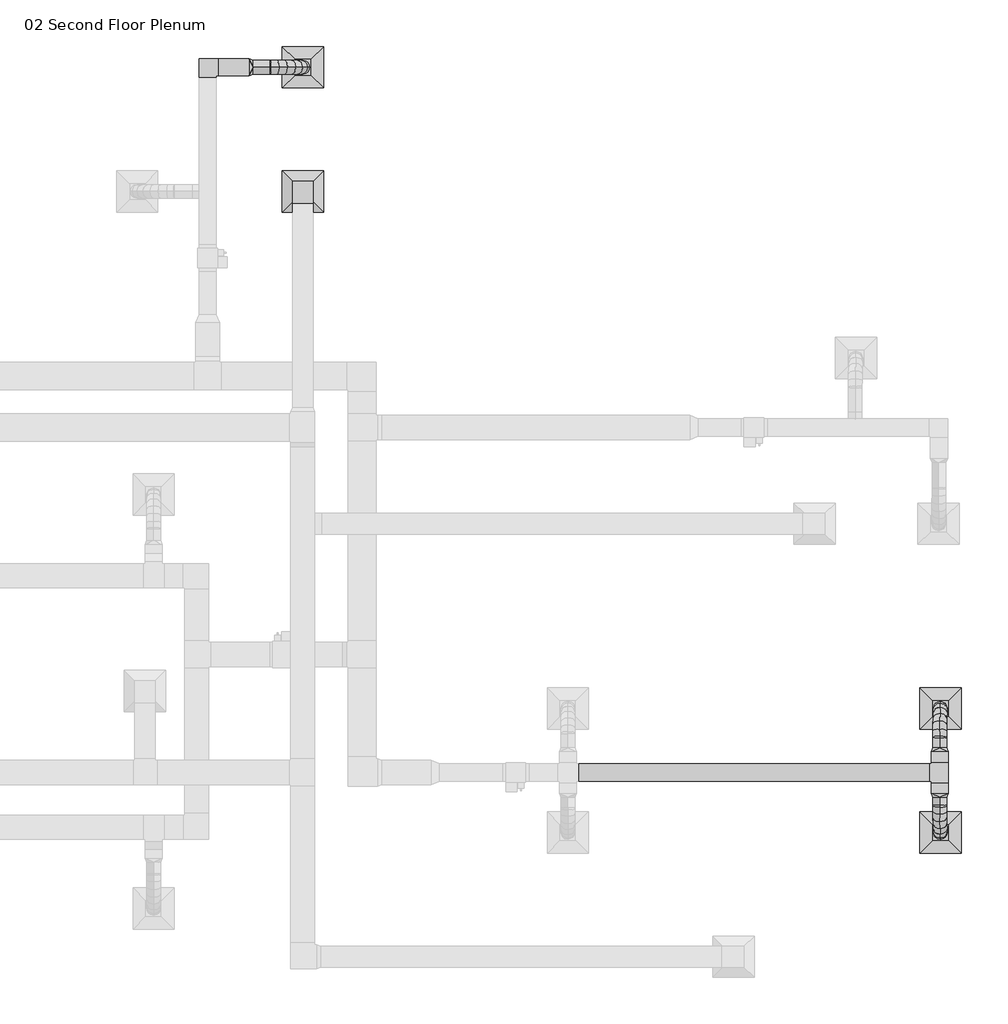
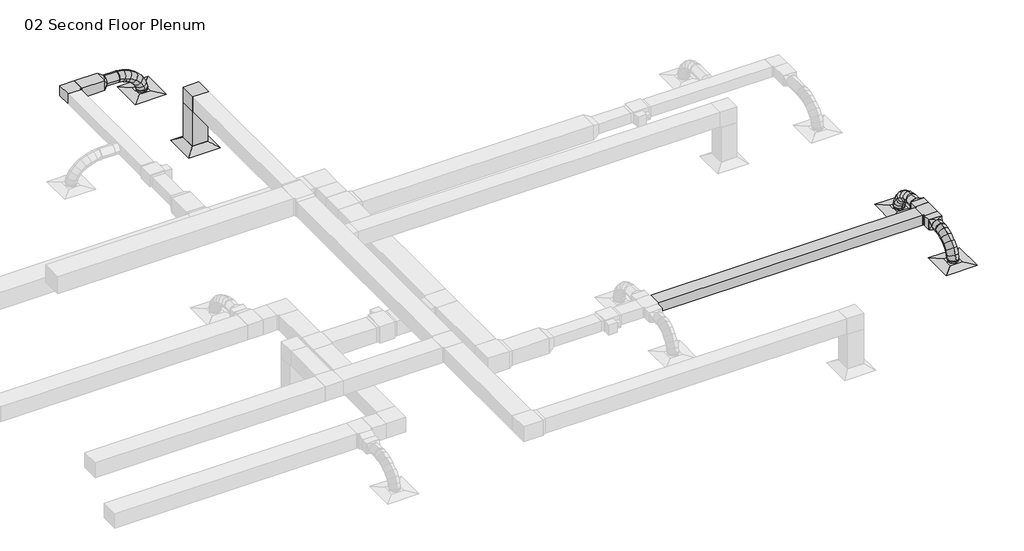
# One storey, part 11 of 12: 11 duct segments, 6 duct fittings, 4 air terminals.
"""IFC4 building model written with IfcOpenShell, lengths in millimetres."""

from ifc_helpers import new_model, si_unit, point, frame, frame_2d, origin, place, context, project, spatial, polyline, circle_curve, ellipse_curve, trimmed, segment, composite_curve, outline, extrude, transform, mapped, element, save
from ifc_brep_helpers import plane_surface, cylinder_surface, advanced_brep
from components import return_diffuser_d30_returndiffuser_24x24_12x12_connection_ff543d60, supply_diffuser_rectangular_face_round_neck_d30_6390248a, rectangular_elbow_mitered_standard_f09b78ec, rectangular_elbow_mitered_standard_4ff1c4e8, rectangular_tee_standard_b316833c, rectangular_to_round_transition_angle_45_degree_e9430680

model = new_model("IFC4")

# Units and contexts
model_context = context("Model", 3, world=origin())
ifc_project = project(units=[si_unit("LENGTHUNIT", "METRE", prefix="MILLI")], contexts=[model_context])

# Site, building, storey
site = spatial("IfcSite", under=ifc_project)
building = spatial("IfcBuilding", under=site)
storey = spatial("IfcBuildingStorey", under=building, Name="02 Second Floor Plenum", Elevation=3048.0)

# Air terminals
placement = place(None, origin())
return_diffuser_d30_returndiffuser_24x24_12x12_connection_shape = return_diffuser_d30_returndiffuser_24x24_12x12_connection_ff543d60(model_context)
element("IfcAirTerminal", 1, ObjectType="Return Diffuser : D30_ReturnDiffuser_24x24 12x12 Connection", at=placement, inside=storey, context=model_context, shape_type="MappedRepresentation", body=[
    mapped(return_diffuser_d30_returndiffuser_24x24_12x12_connection_shape, transform((10252.2832383, 10036.7671675, 3048.0), x_axis=(1.0, 0.0, 0.0), y_axis=(0.0, 1.0, 0.0), z_axis=(0.0, 0.0, 1.0))),
])
supply_diffuser_rectangular_face_round_neck_d30_shape = supply_diffuser_rectangular_face_round_neck_d30_6390248a(model_context)
element("IfcAirTerminal", 2, ObjectType="Supply Diffuser - Rectangular Face Round Neck : D30_SupplyDiffuser_24x24 8 Neck", at=placement, inside=storey, context=model_context, shape_type="MappedRepresentation", body=[
    mapped(supply_diffuser_rectangular_face_round_neck_d30_shape, transform((19645.5207383, 2426.2921675, 3048.0), x_axis=(1.0, 0.0, 0.0), y_axis=(0.0, 1.0, 0.0), z_axis=(0.0, 0.0, 1.0))),
])
element("IfcAirTerminal", 3, ObjectType="Supply Diffuser - Rectangular Face Round Neck : D30_SupplyDiffuser_24x24 8 Neck", at=placement, inside=storey, context=model_context, shape_type="MappedRepresentation", body=[
    mapped(supply_diffuser_rectangular_face_round_neck_d30_shape, transform((19645.5207383, 597.4921675, 3048.0), x_axis=(1.0, 0.0, 0.0), y_axis=(0.0, 1.0, 0.0), z_axis=(0.0, 0.0, 1.0))),
])
element("IfcAirTerminal", 4, ObjectType="Supply Diffuser - Rectangular Face Round Neck : D30_SupplyDiffuser_24x24 8 Neck", at=placement, inside=storey, context=model_context, shape_type="MappedRepresentation", body=[
    mapped(supply_diffuser_rectangular_face_round_neck_d30_shape, transform((10252.2832383, 11865.5671675, 3048.0), x_axis=(1.0, 0.0, 0.0), y_axis=(0.0, 1.0, 0.0), z_axis=(0.0, 0.0, 1.0))),
])

# Duct fittings
rectangular_elbow_mitered_standard_shape = rectangular_elbow_mitered_standard_f09b78ec(model_context)
element("IfcDuctFitting", 5, ObjectType="Rectangular Elbow - Mitered : Standard", at=placement, inside=storey, context=model_context, shape_type="MappedRepresentation", body=[
    mapped(rectangular_elbow_mitered_standard_shape, transform((8850.289134, 11865.5671675, 3505.2), x_axis=(-1.0, 0.0, 0.0), y_axis=(0.0, -1.0, 0.0), z_axis=(0.0, 0.0, 1.0))),
])
rectangular_elbow_mitered_standard_2_shape = rectangular_elbow_mitered_standard_4ff1c4e8(model_context)
element("IfcDuctFitting", 6, ObjectType="Rectangular Elbow - Mitered : Standard", at=placement, inside=storey, context=model_context, shape_type="MappedRepresentation", body=[
    mapped(rectangular_elbow_mitered_standard_2_shape, transform((10252.2832383, 10036.7671675, 4038.6), x_axis=(0.0, 0.0, 1.0), y_axis=(0.0, -1.0, 0.0), z_axis=(1.0, 0.0, 0.0))),
])
rectangular_tee_standard_shape = rectangular_tee_standard_b316833c(model_context)
element("IfcDuctFitting", 7, ObjectType="Rectangular Tee : Standard", at=placement, inside=storey, context=model_context, shape_type="MappedRepresentation", body=[
    mapped(rectangular_tee_standard_shape, transform((19635.0391371, 1482.2580171, 3505.2), x_axis=(0.0, -1.0, 0.0), y_axis=(1.0, 0.0, 0.0), z_axis=(0.0, 0.0, 1.0))),
])
rectangular_to_round_transition_angle_45_degree_shape = rectangular_to_round_transition_angle_45_degree_e9430680(model_context)
element("IfcDuctFitting", 8, ObjectType="Rectangular to Round Transition - Angle : 45 Degree", at=placement, inside=storey, context=model_context, shape_type="MappedRepresentation", body=[
    mapped(rectangular_to_round_transition_angle_45_degree_shape, transform((9459.889134, 11865.5671675, 3505.2), x_axis=(1.0, 0.0, 0.0), y_axis=(0.0, 1.0, 0.0), z_axis=(0.0, 0.0, 1.0))),
])
element("IfcDuctFitting", 9, ObjectType="Rectangular to Round Transition - Angle : 45 Degree", at=placement, inside=storey, context=model_context, shape_type="MappedRepresentation", body=[
    mapped(rectangular_to_round_transition_angle_45_degree_shape, transform((19635.0391371, 1787.0580171, 3505.2), x_axis=(0.0, 1.0, 0.0), y_axis=(-1.0, 0.0, 0.0), z_axis=(0.0, 0.0, 1.0))),
])
element("IfcDuctFitting", 10, ObjectType="Rectangular to Round Transition - Angle : 45 Degree", at=placement, inside=storey, context=model_context, shape_type="MappedRepresentation", body=[
    mapped(rectangular_to_round_transition_angle_45_degree_shape, transform((19635.0391371, 1177.4580171, 3505.2), x_axis=(0.0, -1.0, 0.0), y_axis=(1.0, 0.0, 0.0), z_axis=(0.0, 0.0, 1.0))),
])

# Duct segments
element("IfcDuctSegment", 11, ObjectType="Flex - Round", at=placement, inside=storey, context=model_context, shape_type="AdvancedBrep", body=[
    advanced_brep(
    [(9764.689134, 11967.1671675, 3505.2), (9764.689134, 11865.5671675, 3403.6), (9764.689134, 11763.9671675, 3505.2), (9764.689134, 11865.5671675, 3606.8), (9778.6973765, 11967.1671675, 3505.2), (9770.6377398, 11865.5671675, 3403.6), (9778.6973765, 11763.9671675, 3505.2), (9786.7570132, 11865.5671675, 3606.8), (10252.2832383, 11967.1671675, 3101.975), (10353.8832383, 11865.5671675, 3101.975), (10252.2832383, 11763.9671675, 3101.975), (10150.6832383, 11865.5671675, 3101.975), (9874.039046, 11967.1671675, 3489.9778475), (9847.5716556, 11865.5671675, 3391.3168105), (9874.039046, 11763.9671675, 3489.9778475), (9900.5064365, 11865.5671675, 3588.6388846), (9984.839163, 11967.1671675, 3447.5285565), (9939.1057817, 11865.5671675, 3356.2486277), (9984.839163, 11763.9671675, 3447.5285565), (10030.5725443, 11865.5671675, 3538.8084854), (10087.5765628, 11967.1671675, 3382.6778766), (10024.4632256, 11865.5671675, 3302.3686553), (10087.5765628, 11763.9671675, 3382.6778766), (10150.6899001, 11865.5671675, 3462.987098), (10172.7383234, 11967.1671675, 3300.2515575), (10092.7617587, 11865.5671675, 3236.2639076), (10172.7383234, 11763.9671675, 3300.2515575), (10252.714888, 11865.5671675, 3364.2392074), (10230.8115226, 11967.1671675, 3205.0753487), (10136.2754514, 11865.5671675, 3164.9492848), (10230.8115226, 11763.9671675, 3205.0753487), (10325.3475938, 11865.5671675, 3245.2014127), (10252.2832383, 11967.1671675, 3122.6897958), (10150.6832383, 11865.5671675, 3109.6675594), (10252.2832383, 11763.9671675, 3122.6897958), (10353.8832383, 11865.5671675, 3135.7120321)],
    [
        (0, 1, circle_curve(frame((9764.689134, 11865.5671675, 3505.2), z_axis=(-1.0, 0.0, 0.0), x_axis=(0.0, 1.0, 0.0)), 101.6)),
        (1, 2, circle_curve(frame((9764.689134, 11865.5671675, 3505.2), z_axis=(-1.0, 0.0, 0.0), x_axis=(0.0, 1.0, 0.0)), 101.6)),
        (2, 3, circle_curve(frame((9764.689134, 11865.5671675, 3505.2), z_axis=(-1.0, 0.0, 0.0), x_axis=(0.0, 1.0, 0.0)), 101.6)),
        (3, 0, circle_curve(frame((9764.689134, 11865.5671675, 3505.2), z_axis=(-1.0, 0.0, 0.0), x_axis=(0.0, 1.0, 0.0)), 101.6)),
        (0, 4),
        (4, 5, ellipse_curve(frame((9778.6973765, 11865.5671675, 3505.2), z_axis=(-0.9968683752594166, 0.0, 0.07907871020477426), x_axis=(-0.07907871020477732, 0.0, -0.9968683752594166)), 101.9191726, 101.6)),
        (5, 1),
        (5, 6, ellipse_curve(frame((9778.6973765, 11865.5671675, 3505.2), z_axis=(-0.9968683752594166, 0.0, 0.07907871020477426), x_axis=(-0.07907871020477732, 0.0, -0.9968683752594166)), 101.9191726, 101.6)),
        (6, 2),
        (6, 7, ellipse_curve(frame((9778.6973765, 11865.5671675, 3505.2), z_axis=(-0.9968683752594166, 0.0, 0.07907871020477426), x_axis=(-0.07907871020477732, 0.0, -0.9968683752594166)), 101.9191726, 101.6)),
        (7, 3),
        (7, 4, ellipse_curve(frame((9778.6973765, 11865.5671675, 3505.2), z_axis=(-0.9968683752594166, 0.0, 0.07907871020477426), x_axis=(-0.07907871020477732, 0.0, -0.9968683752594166)), 101.9191726, 101.6)),
        (8, 9, circle_curve(frame((10252.2832383, 11865.5671675, 3101.975), z_axis=(0.0, 0.0, -1.0), x_axis=(0.0, 1.0, 0.0)), 101.6)),
        (9, 10, circle_curve(frame((10252.2832383, 11865.5671675, 3101.975), z_axis=(0.0, 0.0, -1.0), x_axis=(0.0, 1.0, 0.0)), 101.6)),
        (10, 11, circle_curve(frame((10252.2832383, 11865.5671675, 3101.975), z_axis=(0.0, 0.0, -1.0), x_axis=(0.0, 1.0, 0.0)), 101.6)),
        (11, 8, circle_curve(frame((10252.2832383, 11865.5671675, 3101.975), z_axis=(0.0, 0.0, -1.0), x_axis=(0.0, 1.0, 0.0)), 101.6)),
        (4, 12),
        (12, 13, ellipse_curve(frame((9874.039046, 11865.5671675, 3489.9778475), z_axis=(-0.965849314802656, 0.0, 0.2591044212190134), x_axis=(-0.2591044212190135, 0.0, -0.965849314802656)), 102.1495129, 101.6)),
        (13, 5),
        (13, 14, ellipse_curve(frame((9874.039046, 11865.5671675, 3489.9778475), z_axis=(-0.965849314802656, 0.0, 0.2591044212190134), x_axis=(-0.2591044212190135, 0.0, -0.965849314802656)), 102.1495129, 101.6)),
        (14, 6),
        (14, 15, ellipse_curve(frame((9874.039046, 11865.5671675, 3489.9778475), z_axis=(-0.965849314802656, 0.0, 0.2591044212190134), x_axis=(-0.2591044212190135, 0.0, -0.965849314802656)), 102.1495129, 101.6)),
        (15, 7),
        (15, 12, ellipse_curve(frame((9874.039046, 11865.5671675, 3489.9778475), z_axis=(-0.965849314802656, 0.0, 0.2591044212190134), x_axis=(-0.2591044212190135, 0.0, -0.965849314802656)), 102.1495129, 101.6)),
        (12, 16),
        (16, 17, ellipse_curve(frame((9984.839163, 11865.5671675, 3447.5285565), z_axis=(-0.8940608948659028, 0.0, 0.44794543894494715), x_axis=(-0.44794543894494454, 0.0, -0.8940608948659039)), 102.0958744, 101.6)),
        (17, 13),
        (17, 18, ellipse_curve(frame((9984.839163, 11865.5671675, 3447.5285565), z_axis=(-0.8940608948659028, 0.0, 0.44794543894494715), x_axis=(-0.44794543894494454, 0.0, -0.8940608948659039)), 102.0958744, 101.6)),
        (18, 14),
        (18, 19, ellipse_curve(frame((9984.839163, 11865.5671675, 3447.5285565), z_axis=(-0.8940608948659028, 0.0, 0.44794543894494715), x_axis=(-0.44794543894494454, 0.0, -0.8940608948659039)), 102.0958744, 101.6)),
        (19, 15),
        (19, 16, ellipse_curve(frame((9984.839163, 11865.5671675, 3447.5285565), z_axis=(-0.8940608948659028, 0.0, 0.44794543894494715), x_axis=(-0.44794543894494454, 0.0, -0.8940608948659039)), 102.0958744, 101.6)),
        (16, 20),
        (20, 21, ellipse_curve(frame((10087.5765628, 11865.5671675, 3382.6778766), z_axis=(-0.7862553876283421, 0.0, 0.6179016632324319), x_axis=(-0.6179016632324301, 0.0, -0.7862553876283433)), 102.141394, 101.6)),
        (21, 17),
        (21, 22, ellipse_curve(frame((10087.5765628, 11865.5671675, 3382.6778766), z_axis=(-0.7862553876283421, 0.0, 0.6179016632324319), x_axis=(-0.6179016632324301, 0.0, -0.7862553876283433)), 102.141394, 101.6)),
        (22, 18),
        (22, 23, ellipse_curve(frame((10087.5765628, 11865.5671675, 3382.6778766), z_axis=(-0.7862553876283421, 0.0, 0.6179016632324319), x_axis=(-0.6179016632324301, 0.0, -0.7862553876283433)), 102.141394, 101.6)),
        (23, 19),
        (23, 20, ellipse_curve(frame((10087.5765628, 11865.5671675, 3382.6778766), z_axis=(-0.7862553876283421, 0.0, 0.6179016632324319), x_axis=(-0.6179016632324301, 0.0, -0.7862553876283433)), 102.141394, 101.6)),
        (20, 24),
        (24, 25, ellipse_curve(frame((10172.7383234, 11865.5671675, 3300.2515575), z_axis=(-0.6247331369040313, 0.0, 0.7808383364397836), x_axis=(-0.7808383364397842, 0.0, -0.6247331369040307)), 102.4239729, 101.6)),
        (25, 21),
        (25, 26, ellipse_curve(frame((10172.7383234, 11865.5671675, 3300.2515575), z_axis=(-0.6247331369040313, 0.0, 0.7808383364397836), x_axis=(-0.7808383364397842, 0.0, -0.6247331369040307)), 102.4239729, 101.6)),
        (26, 22),
        (26, 27, ellipse_curve(frame((10172.7383234, 11865.5671675, 3300.2515575), z_axis=(-0.6247331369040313, 0.0, 0.7808383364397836), x_axis=(-0.7808383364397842, 0.0, -0.6247331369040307)), 102.4239729, 101.6)),
        (27, 23),
        (27, 24, ellipse_curve(frame((10172.7383234, 11865.5671675, 3300.2515575), z_axis=(-0.6247331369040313, 0.0, 0.7808383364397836), x_axis=(-0.7808383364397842, 0.0, -0.6247331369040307)), 102.4239729, 101.6)),
        (24, 28),
        (28, 29, ellipse_curve(frame((10230.8115226, 11865.5671675, 3205.0753487), z_axis=(-0.39071365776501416, 0.0, 0.9205122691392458), x_axis=(-0.9205122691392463, 0.0, -0.390713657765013)), 102.6994146, 101.6)),
        (29, 25),
        (29, 30, ellipse_curve(frame((10230.8115226, 11865.5671675, 3205.0753487), z_axis=(-0.39071365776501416, 0.0, 0.9205122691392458), x_axis=(-0.9205122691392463, 0.0, -0.390713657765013)), 102.6994146, 101.6)),
        (30, 26),
        (30, 31, ellipse_curve(frame((10230.8115226, 11865.5671675, 3205.0753487), z_axis=(-0.39071365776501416, 0.0, 0.9205122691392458), x_axis=(-0.9205122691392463, 0.0, -0.390713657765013)), 102.6994146, 101.6)),
        (31, 27),
        (31, 28, ellipse_curve(frame((10230.8115226, 11865.5671675, 3205.0753487), z_axis=(-0.39071365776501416, 0.0, 0.9205122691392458), x_axis=(-0.9205122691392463, 0.0, -0.390713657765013)), 102.6994146, 101.6)),
        (28, 32),
        (32, 33, ellipse_curve(frame((10252.2832383, 11865.5671675, 3122.6897958), z_axis=(-0.12713161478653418, 0.0, 0.9918858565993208), x_axis=(-0.9918858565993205, 0.0, -0.12713161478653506)), 102.431141, 101.6)),
        (33, 29),
        (33, 34, ellipse_curve(frame((10252.2832383, 11865.5671675, 3122.6897958), z_axis=(-0.12713161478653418, 0.0, 0.9918858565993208), x_axis=(-0.9918858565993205, 0.0, -0.12713161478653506)), 102.431141, 101.6)),
        (34, 30),
        (34, 35, ellipse_curve(frame((10252.2832383, 11865.5671675, 3122.6897958), z_axis=(-0.12713161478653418, 0.0, 0.9918858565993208), x_axis=(-0.9918858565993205, 0.0, -0.12713161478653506)), 102.431141, 101.6)),
        (35, 31),
        (35, 32, ellipse_curve(frame((10252.2832383, 11865.5671675, 3122.6897958), z_axis=(-0.12713161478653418, 0.0, 0.9918858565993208), x_axis=(-0.9918858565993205, 0.0, -0.12713161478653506)), 102.431141, 101.6)),
        (32, 8),
        (11, 33),
        (10, 34),
        (9, 35),
    ],
    [
        plane_surface(frame((9764.689134, 11865.5671675, 3403.6), z_axis=(-1.0, 0.0, 0.0), x_axis=(0.0, 1.0, 0.0))),
        cylinder_surface(frame((9764.689134, 11865.5671675, 3505.2), z_axis=(-1.0, 0.0, 0.0), x_axis=(0.0, 1.0, 0.0)), 101.6),
        plane_surface(frame((10252.2832383, 11763.9671675, 3101.975), z_axis=(0.0, 0.0, -1.0), x_axis=(-1.0, 0.0, 0.0))),
        cylinder_surface(frame((9778.6973765, 11865.5671675, 3505.2), z_axis=(-0.9874931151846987, 0.0, 0.15766213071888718), x_axis=(0.0, 1.0, 0.0)), 101.6),
        cylinder_surface(frame((9874.039046, 11865.5671675, 3489.9778475), z_axis=(-0.9338139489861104, 0.0, 0.3577590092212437), x_axis=(0.0, 1.0, 0.0)), 101.6),
        cylinder_surface(frame((9984.839163, 11865.5671675, 3447.5285565), z_axis=(-0.8456230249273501, 0.0, 0.5337805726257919), x_axis=(0.0, 1.0, 0.0)), 101.6),
        cylinder_surface(frame((10087.5765628, 11865.5671675, 3382.6778766), z_axis=(-0.7185527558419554, 0.0, 0.6954724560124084), x_axis=(0.0, 1.0, 0.0)), 101.6),
        cylinder_surface(frame((10172.7383234, 11865.5671675, 3300.2515575), z_axis=(-0.5208619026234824, 0.0, 0.853640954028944), x_axis=(0.0, 1.0, 0.0)), 101.6),
        cylinder_surface(frame((10230.8115226, 11865.5671675, 3205.0753487), z_axis=(-0.2522001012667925, 0.0, 0.9676751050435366), x_axis=(0.0, 1.0, 0.0)), 101.6),
        cylinder_surface(frame((10252.2832383, 11865.5671675, 3122.6897958), z_axis=(0.0, 0.0, 1.0), x_axis=(0.0, 1.0, 0.0)), 101.6),
    ],
    [
        (0, [[1, 2, 3, 4]]),
        (1, [[-1, 5, 6, 7]]),
        (1, [[-2, -7, 8, 9]]),
        (1, [[-3, -9, 10, 11]]),
        (1, [[-4, -11, 12, -5]]),
        (2, [[13, 14, 15, 16]]),
        (3, [[-6, 17, 18, 19]]),
        (3, [[-8, -19, 20, 21]]),
        (3, [[-10, -21, 22, 23]]),
        (3, [[-12, -23, 24, -17]]),
        (4, [[-18, 25, 26, 27]]),
        (4, [[-20, -27, 28, 29]]),
        (4, [[-22, -29, 30, 31]]),
        (4, [[-24, -31, 32, -25]]),
        (5, [[-26, 33, 34, 35]]),
        (5, [[-28, -35, 36, 37]]),
        (5, [[-30, -37, 38, 39]]),
        (5, [[-32, -39, 40, -33]]),
        (6, [[-34, 41, 42, 43]]),
        (6, [[-36, -43, 44, 45]]),
        (6, [[-38, -45, 46, 47]]),
        (6, [[-40, -47, 48, -41]]),
        (7, [[-42, 49, 50, 51]]),
        (7, [[-44, -51, 52, 53]]),
        (7, [[-46, -53, 54, 55]]),
        (7, [[-48, -55, 56, -49]]),
        (8, [[-50, 57, 58, 59]]),
        (8, [[-52, -59, 60, 61]]),
        (8, [[-54, -61, 62, 63]]),
        (8, [[-56, -63, 64, -57]]),
        (9, [[-58, 65, -16, 66]]),
        (9, [[-60, -66, -15, 67]]),
        (9, [[-62, -67, -14, 68]]),
        (9, [[-64, -68, -13, -65]]),
    ],
),
])
element("IfcDuctSegment", 12, ObjectType="Flex - Round", at=placement, inside=storey, context=model_context, shape_type="AdvancedBrep", body=[
    advanced_brep(
    [(19533.4391371, 1990.2580171, 3505.2), (19635.0391371, 1990.2580171, 3403.6), (19736.6391371, 1990.2580171, 3505.2), (19635.0391371, 1990.2580171, 3606.8), (19533.4391371, 2006.7216865, 3505.2), (19635.0391371, 1996.7188177, 3403.6), (19736.6391371, 2005.8023236, 3505.2), (19635.0391371, 2015.8051925, 3606.8), (19543.9465758, 2428.5833494, 3101.975), (19647.8119202, 2527.86633, 3101.975), (19747.0949008, 2424.0009856, 3101.975), (19643.2295564, 2324.718005, 3101.975), (19534.2239226, 2092.6824208, 3488.9075101), (19635.624369, 2060.8216408, 3391.4503295), (19737.4071814, 2089.9293256, 3489.2550649), (19636.006735, 2121.7901056, 3586.7122455), (19536.1786595, 2193.3849823, 3444.1722626), (19637.1629609, 2140.085577, 3356.2387942), (19739.334519, 2189.2203507, 3445.1468663), (19638.3502176, 2242.519756, 3533.0803347), (19538.7114331, 2284.9470858, 3377.0995566), (19639.2067433, 2213.9702002, 3302.1155115), (19741.8484424, 2280.1010039, 3378.5733484), (19641.3531321, 2351.0778895, 3453.5573936), (19541.2367927, 2359.7282528, 3293.710266), (19641.2182074, 2273.5338475, 3235.6954421), (19744.3697796, 2354.763059, 3295.3168808), (19644.3883649, 2440.9574643, 3353.3317046), (19543.1739727, 2410.1253952, 3199.9758822), (19642.691919, 2311.8735226, 3164.3869186), (19746.3146741, 2405.3608998, 3201.2092151), (19646.7967279, 2503.6127725, 3236.7981787), (19543.9465758, 2428.5833494, 3120.5467612), (19643.2295564, 2324.718005, 3109.1139485), (19747.0949008, 2424.0009856, 3120.9963369), (19647.8119202, 2527.86633, 3132.4291496)],
    [
        (0, 1, circle_curve(frame((19635.0391371, 1990.2580171, 3505.2), z_axis=(0.0, -1.0, 0.0), x_axis=(-1.0, 0.0, 0.0)), 101.6)),
        (1, 2, circle_curve(frame((19635.0391371, 1990.2580171, 3505.2), z_axis=(0.0, -1.0, 0.0), x_axis=(-1.0, 0.0, 0.0)), 101.6)),
        (2, 3, circle_curve(frame((19635.0391371, 1990.2580171, 3505.2), z_axis=(0.0, -1.0, 0.0), x_axis=(-1.0, 0.0, 0.0)), 101.6)),
        (3, 0, circle_curve(frame((19635.0391371, 1990.2580171, 3505.2), z_axis=(0.0, -1.0, 0.0), x_axis=(-1.0, 0.0, 0.0)), 101.6)),
        (0, 4),
        (4, 5, ellipse_curve(frame((19635.0391371, 2006.2620051, 3505.2), z_axis=(-0.004504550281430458, -0.9956075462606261, 0.09351643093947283), x_axis=(0.047901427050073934, -0.09362485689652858, -0.9944545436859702)), 102.0482422, 101.6)),
        (5, 1),
        (5, 6, ellipse_curve(frame((19635.0391371, 2006.2620051, 3505.2), z_axis=(-0.004504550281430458, -0.9956075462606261, 0.09351643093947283), x_axis=(0.047901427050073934, -0.09362485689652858, -0.9944545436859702)), 102.0482422, 101.6)),
        (6, 2),
        (6, 7, ellipse_curve(frame((19635.0391371, 2006.2620051, 3505.2), z_axis=(-0.004504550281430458, -0.9956075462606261, 0.09351643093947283), x_axis=(0.047901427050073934, -0.09362485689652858, -0.9944545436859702)), 102.0482422, 101.6)),
        (7, 3),
        (7, 4, ellipse_curve(frame((19635.0391371, 2006.2620051, 3505.2), z_axis=(-0.004504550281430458, -0.9956075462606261, 0.09351643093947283), x_axis=(0.047901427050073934, -0.09362485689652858, -0.9944545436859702)), 102.0482422, 101.6)),
        (8, 9, circle_curve(frame((19645.5207383, 2426.2921675, 3101.975), z_axis=(0.0, 0.0, -1.0), x_axis=(-0.9997456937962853, 0.02255100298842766, 0.0)), 101.6)),
        (9, 10, circle_curve(frame((19645.5207383, 2426.2921675, 3101.975), z_axis=(0.0, 0.0, -1.0), x_axis=(-0.9997456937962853, 0.02255100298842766, 0.0)), 101.6)),
        (10, 11, circle_curve(frame((19645.5207383, 2426.2921675, 3101.975), z_axis=(0.0, 0.0, -1.0), x_axis=(-0.9997456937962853, 0.02255100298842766, 0.0)), 101.6)),
        (11, 8, circle_curve(frame((19645.5207383, 2426.2921675, 3101.975), z_axis=(0.0, 0.0, -1.0), x_axis=(-0.9997456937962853, 0.02255100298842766, 0.0)), 101.6)),
        (4, 12),
        (12, 13, ellipse_curve(frame((19635.815552, 2091.3058732, 3489.0812875), z_axis=(-0.01344253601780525, -0.9544570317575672, 0.2980454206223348), x_axis=(0.03805700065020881, -0.29834475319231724, -0.9536991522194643)), 102.2807567, 101.6)),
        (13, 5),
        (13, 14, ellipse_curve(frame((19635.815552, 2091.3058732, 3489.0812875), z_axis=(-0.01344253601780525, -0.9544570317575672, 0.2980454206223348), x_axis=(0.03805700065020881, -0.29834475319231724, -0.9536991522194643)), 102.2807567, 101.6)),
        (14, 6),
        (14, 15, ellipse_curve(frame((19635.815552, 2091.3058732, 3489.0812875), z_axis=(-0.01344253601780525, -0.9544570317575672, 0.2980454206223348), x_axis=(0.03805700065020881, -0.29834475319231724, -0.9536991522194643)), 102.2807567, 101.6)),
        (15, 7),
        (15, 12, ellipse_curve(frame((19635.815552, 2091.3058732, 3489.0812875), z_axis=(-0.01344253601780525, -0.9544570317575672, 0.2980454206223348), x_axis=(0.03805700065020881, -0.29834475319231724, -0.9536991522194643)), 102.2807567, 101.6)),
        (12, 16),
        (16, 17, ellipse_curve(frame((19637.7565893, 2191.3026665, 3444.6595645), z_axis=(-0.020138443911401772, -0.8650813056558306, 0.5012272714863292), x_axis=(0.021390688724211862, -0.5015869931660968, -0.8648427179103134)), 102.1854421, 101.6)),
        (17, 13),
        (17, 18, ellipse_curve(frame((19637.7565893, 2191.3026665, 3444.6595645), z_axis=(-0.020138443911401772, -0.8650813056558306, 0.5012272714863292), x_axis=(0.021390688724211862, -0.5015869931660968, -0.8648427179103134)), 102.1854421, 101.6)),
        (18, 14),
        (18, 19, ellipse_curve(frame((19637.7565893, 2191.3026665, 3444.6595645), z_axis=(-0.020138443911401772, -0.8650813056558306, 0.5012272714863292), x_axis=(0.021390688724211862, -0.5015869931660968, -0.8648427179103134)), 102.1854421, 101.6)),
        (19, 15),
        (19, 16, ellipse_curve(frame((19637.7565893, 2191.3026665, 3444.6595645), z_axis=(-0.020138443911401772, -0.8650813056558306, 0.5012272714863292), x_axis=(0.021390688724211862, -0.5015869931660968, -0.8648427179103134)), 102.1854421, 101.6)),
        (16, 20),
        (20, 21, ellipse_curve(frame((19640.2799377, 2282.5240448, 3377.8364525), z_axis=(-0.02254614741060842, -0.74097192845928, 0.6711574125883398), x_axis=(0.0011143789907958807, -0.6713462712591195, -0.7411429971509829)), 102.1491926, 101.6)),
        (21, 17),
        (21, 22, ellipse_curve(frame((19640.2799377, 2282.5240448, 3377.8364525), z_axis=(-0.02254614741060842, -0.74097192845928, 0.6711574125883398), x_axis=(0.0011143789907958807, -0.6713462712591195, -0.7411429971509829)), 102.1491926, 101.6)),
        (22, 18),
        (22, 23, ellipse_curve(frame((19640.2799377, 2282.5240448, 3377.8364525), z_axis=(-0.02254614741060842, -0.74097192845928, 0.6711574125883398), x_axis=(0.0011143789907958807, -0.6713462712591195, -0.7411429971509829)), 102.1491926, 101.6)),
        (23, 19),
        (23, 20, ellipse_curve(frame((19640.2799377, 2282.5240448, 3377.8364525), z_axis=(-0.02254614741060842, -0.74097192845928, 0.6711574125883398), x_axis=(0.0011143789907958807, -0.6713462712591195, -0.7411429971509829)), 102.1491926, 101.6)),
        (20, 24),
        (24, 25, ellipse_curve(frame((19642.8032862, 2357.2456559, 3294.5135734), z_axis=(-0.020514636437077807, -0.5745226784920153, 0.8182315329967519), x_axis=(-0.01830487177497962, -0.8180507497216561, -0.5748546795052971)), 102.3218114, 101.6)),
        (25, 21),
        (25, 26, ellipse_curve(frame((19642.8032862, 2357.2456559, 3294.5135734), z_axis=(-0.020514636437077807, -0.5745226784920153, 0.8182315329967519), x_axis=(-0.01830487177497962, -0.8180507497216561, -0.5748546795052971)), 102.3218114, 101.6)),
        (26, 22),
        (26, 27, ellipse_curve(frame((19642.8032862, 2357.2456559, 3294.5135734), z_axis=(-0.020514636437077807, -0.5745226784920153, 0.8182315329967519), x_axis=(-0.01830487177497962, -0.8180507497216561, -0.5748546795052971)), 102.3218114, 101.6)),
        (27, 23),
        (27, 24, ellipse_curve(frame((19642.8032862, 2357.2456559, 3294.5135734), z_axis=(-0.020514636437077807, -0.5745226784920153, 0.8182315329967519), x_axis=(-0.01830487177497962, -0.8180507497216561, -0.5748546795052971)), 102.3218114, 101.6)),
        (24, 28),
        (28, 29, ellipse_curve(frame((19644.7443234, 2407.7431475, 3200.5925486), z_axis=(-0.013959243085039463, -0.35300396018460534, 0.9355176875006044), x_axis=(-0.03300957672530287, -0.9349361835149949, -0.3532770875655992)), 102.4991538, 101.6)),
        (29, 25),
        (29, 30, ellipse_curve(frame((19644.7443234, 2407.7431475, 3200.5925486), z_axis=(-0.013959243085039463, -0.35300396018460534, 0.9355176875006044), x_axis=(-0.03300957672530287, -0.9349361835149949, -0.3532770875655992)), 102.4991538, 101.6)),
        (30, 26),
        (30, 31, ellipse_curve(frame((19644.7443234, 2407.7431475, 3200.5925486), z_axis=(-0.013959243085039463, -0.35300396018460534, 0.9355176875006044), x_axis=(-0.03300957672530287, -0.9349361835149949, -0.3532770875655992)), 102.4991538, 101.6)),
        (31, 27),
        (31, 28, ellipse_curve(frame((19644.7443234, 2407.7431475, 3200.5925486), z_axis=(-0.013959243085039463, -0.35300396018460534, 0.9355176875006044), x_axis=(-0.03300957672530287, -0.9349361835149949, -0.3532770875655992)), 102.4991538, 101.6)),
        (28, 32),
        (32, 33, ellipse_curve(frame((19645.5207383, 2426.2921675, 3120.771549), z_axis=(-0.004768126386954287, -0.11391341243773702, 0.9934792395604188), x_axis=(-0.041548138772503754, -0.9926100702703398, -0.11401315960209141)), 102.2668577, 101.6)),
        (33, 29),
        (33, 34, ellipse_curve(frame((19645.5207383, 2426.2921675, 3120.771549), z_axis=(-0.004768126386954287, -0.11391341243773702, 0.9934792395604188), x_axis=(-0.041548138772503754, -0.9926100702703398, -0.11401315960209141)), 102.2668577, 101.6)),
        (34, 30),
        (34, 35, ellipse_curve(frame((19645.5207383, 2426.2921675, 3120.771549), z_axis=(-0.004768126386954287, -0.11391341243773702, 0.9934792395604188), x_axis=(-0.041548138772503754, -0.9926100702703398, -0.11401315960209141)), 102.2668577, 101.6)),
        (35, 31),
        (35, 32, ellipse_curve(frame((19645.5207383, 2426.2921675, 3120.771549), z_axis=(-0.004768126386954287, -0.11391341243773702, 0.9934792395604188), x_axis=(-0.041548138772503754, -0.9926100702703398, -0.11401315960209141)), 102.2668577, 101.6)),
        (32, 8),
        (11, 33),
        (10, 34),
        (9, 35),
    ],
    [
        plane_surface(frame((19533.4391371, 1990.2580171, 3505.2), z_axis=(0.0, -1.0, 0.0), x_axis=(0.0, 0.0, 1.0))),
        cylinder_surface(frame((19635.0391371, 1990.2580171, 3505.2), z_axis=(0.0, -1.0, 0.0), x_axis=(-1.0, 0.0, 0.0)), 101.6),
        plane_surface(frame((19645.5207383, 2324.6921675, 3101.975), z_axis=(0.0, 0.0, -1.0), x_axis=(-1.0, 0.0, 0.0))),
        cylinder_surface(frame((19635.0391371, 2006.2620051, 3505.2), z_axis=(-0.008969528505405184, -0.9824687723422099, 0.18621132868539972), x_axis=(-0.9999594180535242, 0.008969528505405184, -0.0008424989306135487)), 101.6),
        cylinder_surface(frame((19635.815552, 2091.3058732, 3489.0812875), z_axis=(-0.017736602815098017, -0.9137400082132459, 0.405912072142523), x_axis=(-0.9998349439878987, 0.017807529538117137, -0.0036023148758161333)), 101.6),
        cylinder_surface(frame((19637.7565893, 2191.3026665, 3444.6595645), z_axis=(-0.022309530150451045, -0.8065101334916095, 0.5907991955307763), x_axis=(-0.999717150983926, 0.022867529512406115, -0.006534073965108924)), 101.6),
        cylinder_surface(frame((19640.2799377, 2282.5240448, 3377.8364525), z_axis=(-0.022540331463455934, -0.6674662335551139, 0.7442988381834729), x_axis=(-0.9996625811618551, 0.02466094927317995, -0.00815851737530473)), 101.6),
        cylinder_surface(frame((19642.8032862, 2357.2456559, 3294.5135734), z_axis=(-0.018199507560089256, -0.47347338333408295, 0.8806200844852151), x_axis=(-0.9996763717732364, 0.024274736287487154, -0.007608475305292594)), 101.6),
        cylinder_surface(frame((19644.7443234, 2407.7431475, 3200.5925486), z_axis=(-0.009474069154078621, -0.22634122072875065, 0.9740019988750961), x_axis=(-0.9997247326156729, 0.023051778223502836, -0.004367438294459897)), 101.6),
        cylinder_surface(frame((19645.5207383, 2426.2921675, 3120.771549), z_axis=(0.0, 0.0, 1.0), x_axis=(-0.9997456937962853, 0.02255100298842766, 0.0)), 101.6),
    ],
    [
        (0, [[1, 2, 3, 4]]),
        (1, [[-1, 5, 6, 7]]),
        (1, [[-2, -7, 8, 9]]),
        (1, [[-3, -9, 10, 11]]),
        (1, [[-4, -11, 12, -5]]),
        (2, [[13, 14, 15, 16]]),
        (3, [[-6, 17, 18, 19]]),
        (3, [[-8, -19, 20, 21]]),
        (3, [[-10, -21, 22, 23]]),
        (3, [[-12, -23, 24, -17]]),
        (4, [[-18, 25, 26, 27]]),
        (4, [[-20, -27, 28, 29]]),
        (4, [[-22, -29, 30, 31]]),
        (4, [[-24, -31, 32, -25]]),
        (5, [[-26, 33, 34, 35]]),
        (5, [[-28, -35, 36, 37]]),
        (5, [[-30, -37, 38, 39]]),
        (5, [[-32, -39, 40, -33]]),
        (6, [[-34, 41, 42, 43]]),
        (6, [[-36, -43, 44, 45]]),
        (6, [[-38, -45, 46, 47]]),
        (6, [[-40, -47, 48, -41]]),
        (7, [[-42, 49, 50, 51]]),
        (7, [[-44, -51, 52, 53]]),
        (7, [[-46, -53, 54, 55]]),
        (7, [[-48, -55, 56, -49]]),
        (8, [[-50, 57, 58, 59]]),
        (8, [[-52, -59, 60, 61]]),
        (8, [[-54, -61, 62, 63]]),
        (8, [[-56, -63, 64, -57]]),
        (9, [[-58, 65, -16, 66]]),
        (9, [[-60, -66, -15, 67]]),
        (9, [[-62, -67, -14, 68]]),
        (9, [[-64, -68, -13, -65]]),
    ],
),
])
element("IfcDuctSegment", 13, ObjectType="Flex - Round", at=placement, inside=storey, context=model_context, shape_type="AdvancedBrep", body=[
    advanced_brep(
    [(19736.6391371, 999.6580171, 3505.2), (19635.0391371, 999.6580171, 3403.6), (19533.4391371, 999.6580171, 3505.2), (19635.0391371, 999.6580171, 3606.8), (19736.6391371, 982.7107426, 3505.2), (19635.0391371, 992.9200947, 3403.6), (19533.4391371, 981.7141162, 3505.2), (19635.0391371, 971.5047641, 3606.8), (19747.0926613, 599.8805698, 3101.975), (19647.9091406, 495.9202445, 3101.975), (19543.9488154, 595.1037652, 3101.975), (19643.132336, 699.0640904, 3101.975), (19737.4059213, 905.4118707, 3488.7234776), (19635.589496, 937.438871, 3391.7739849), (19534.2251828, 902.4735116, 3488.3095906), (19636.041608, 870.4465114, 3585.2590832), (19739.3317585, 813.205399, 3443.416889), (19637.0780746, 866.167749, 3356.7541935), (19536.1814201, 808.8115214, 3442.2878181), (19638.435104, 755.8491714, 3528.9505135), (19741.8447904, 729.9146723, 3375.6296), (19639.0834526, 799.7024617, 3302.6605169), (19538.715085, 724.8369442, 3373.9439681), (19641.4764229, 655.0491548, 3446.9130512), (19744.3662988, 662.1535318, 3291.8031394), (19641.0898635, 745.7836687, 3235.9582514), (19541.2402735, 656.976907, 3289.9951636), (19644.5167089, 573.3467702, 3345.8400516), (19746.3119226, 616.5780519, 3198.4527079), (19642.5805026, 710.8660283, 3164.4378461), (19543.1767243, 611.6163037, 3197.0848552), (19646.9081443, 517.3283273, 3231.099717), (19747.0926613, 599.8805698, 3119.5932993), (19643.132336, 699.0640904, 3108.6992723), (19543.9488154, 595.1037652, 3119.0989042), (19647.9091406, 495.9202445, 3129.9929312)],
    [
        (0, 1, circle_curve(frame((19635.0391371, 999.6580171, 3505.2), z_axis=(0.0, 1.0, 0.0), x_axis=(1.0, 0.0, 0.0)), 101.6)),
        (1, 2, circle_curve(frame((19635.0391371, 999.6580171, 3505.2), z_axis=(0.0, 1.0, 0.0), x_axis=(1.0, 0.0, 0.0)), 101.6)),
        (2, 3, circle_curve(frame((19635.0391371, 999.6580171, 3505.2), z_axis=(0.0, 1.0, 0.0), x_axis=(1.0, 0.0, 0.0)), 101.6)),
        (3, 0, circle_curve(frame((19635.0391371, 999.6580171, 3505.2), z_axis=(0.0, 1.0, 0.0), x_axis=(1.0, 0.0, 0.0)), 101.6)),
        (0, 4),
        (4, 5, ellipse_curve(frame((19635.0391371, 982.2124294, 3505.2), z_axis=(-0.004877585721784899, 0.994480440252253, 0.10480869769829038), x_axis=(0.04623108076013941, 0.10492213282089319, -0.9934052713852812)), 102.1638997, 101.6)),
        (5, 1),
        (5, 6, ellipse_curve(frame((19635.0391371, 982.2124294, 3505.2), z_axis=(-0.004877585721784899, 0.994480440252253, 0.10480869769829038), x_axis=(0.04623108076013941, 0.10492213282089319, -0.9934052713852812)), 102.1638997, 101.6)),
        (6, 2),
        (6, 7, ellipse_curve(frame((19635.0391371, 982.2124294, 3505.2), z_axis=(-0.004877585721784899, 0.994480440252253, 0.10480869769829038), x_axis=(0.04623108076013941, 0.10492213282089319, -0.9934052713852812)), 102.1638997, 101.6)),
        (7, 3),
        (7, 4, ellipse_curve(frame((19635.0391371, 982.2124294, 3505.2), z_axis=(-0.004877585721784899, 0.994480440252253, 0.10480869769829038), x_axis=(0.04623108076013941, 0.10492213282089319, -0.9934052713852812)), 102.1638997, 101.6)),
        (8, 9, circle_curve(frame((19645.5207383, 597.4921675, 3101.975), z_axis=(0.0, 0.0, -1.0), x_axis=(0.999723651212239, 0.02350789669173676, 0.0)), 101.6)),
        (9, 10, circle_curve(frame((19645.5207383, 597.4921675, 3101.975), z_axis=(0.0, 0.0, -1.0), x_axis=(0.999723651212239, 0.02350789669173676, 0.0)), 101.6)),
        (10, 11, circle_curve(frame((19645.5207383, 597.4921675, 3101.975), z_axis=(0.0, 0.0, -1.0), x_axis=(0.999723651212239, 0.02350789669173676, 0.0)), 101.6)),
        (11, 8, circle_curve(frame((19645.5207383, 597.4921675, 3101.975), z_axis=(0.0, 0.0, -1.0), x_axis=(0.999723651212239, 0.02350789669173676, 0.0)), 101.6)),
        (4, 12),
        (12, 13, ellipse_curve(frame((19635.815552, 903.9426912, 3488.5165341), z_axis=(-0.014330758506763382, 0.9448533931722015, 0.32717991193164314), x_axis=(0.036719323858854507, 0.32749010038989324, -0.9441408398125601)), 102.3787596, 101.6)),
        (13, 5),
        (13, 14, ellipse_curve(frame((19635.815552, 903.9426912, 3488.5165341), z_axis=(-0.014330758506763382, 0.9448533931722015, 0.32717991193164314), x_axis=(0.036719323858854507, 0.32749010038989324, -0.9441408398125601)), 102.3787596, 101.6)),
        (14, 6),
        (14, 15, ellipse_curve(frame((19635.815552, 903.9426912, 3488.5165341), z_axis=(-0.014330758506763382, 0.9448533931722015, 0.32717991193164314), x_axis=(0.036719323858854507, 0.32749010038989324, -0.9441408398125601)), 102.3787596, 101.6)),
        (15, 7),
        (15, 12, ellipse_curve(frame((19635.815552, 903.9426912, 3488.5165341), z_axis=(-0.014330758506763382, 0.9448533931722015, 0.32717991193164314), x_axis=(0.036719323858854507, 0.32749010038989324, -0.9441408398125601)), 102.3787596, 101.6)),
        (12, 16),
        (16, 17, ellipse_curve(frame((19637.7565893, 811.0084602, 3442.8523535), z_axis=(-0.02120419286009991, 0.8417553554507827, 0.539442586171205), x_axis=(0.020592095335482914, 0.5398171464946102, -0.8415303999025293)), 102.2545887, 101.6)),
        (17, 13),
        (17, 18, ellipse_curve(frame((19637.7565893, 811.0084602, 3442.8523535), z_axis=(-0.02120419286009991, 0.8417553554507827, 0.539442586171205), x_axis=(0.020592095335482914, 0.5398171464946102, -0.8415303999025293)), 102.2545887, 101.6)),
        (18, 14),
        (18, 19, ellipse_curve(frame((19637.7565893, 811.0084602, 3442.8523535), z_axis=(-0.02120419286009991, 0.8417553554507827, 0.539442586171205), x_axis=(0.020592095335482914, 0.5398171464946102, -0.8415303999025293)), 102.2545887, 101.6)),
        (19, 15),
        (19, 16, ellipse_curve(frame((19637.7565893, 811.0084602, 3442.8523535), z_axis=(-0.02120419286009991, 0.8417553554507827, 0.539442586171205), x_axis=(0.020592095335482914, 0.5398171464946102, -0.8415303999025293)), 102.2545887, 101.6)),
        (16, 20),
        (20, 21, ellipse_curve(frame((19640.2799377, 727.3758082, 3374.7867841), z_axis=(-0.023517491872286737, 0.7057348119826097, 0.7080856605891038), x_axis=(-3.9093204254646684e-05, 0.7082809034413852, -0.7059307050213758)), 102.1508211, 101.6)),
        (21, 17),
        (21, 22, ellipse_curve(frame((19640.2799377, 727.3758082, 3374.7867841), z_axis=(-0.023517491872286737, 0.7057348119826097, 0.7080856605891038), x_axis=(-3.9093204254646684e-05, 0.7082809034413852, -0.7059307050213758)), 102.1508211, 101.6)),
        (22, 18),
        (22, 23, ellipse_curve(frame((19640.2799377, 727.3758082, 3374.7867841), z_axis=(-0.023517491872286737, 0.7057348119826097, 0.7080856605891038), x_axis=(-3.9093204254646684e-05, 0.7082809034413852, -0.7059307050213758)), 102.1508211, 101.6)),
        (23, 19),
        (23, 20, ellipse_curve(frame((19640.2799377, 727.3758082, 3374.7867841), z_axis=(-0.023517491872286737, 0.7057348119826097, 0.7080856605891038), x_axis=(-3.9093204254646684e-05, 0.7082809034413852, -0.7059307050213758)), 102.1508211, 101.6)),
        (20, 24),
        (24, 25, ellipse_curve(frame((19642.8032862, 659.5652194, 3290.8991515), z_axis=(-0.021190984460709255, 0.5369746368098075, 0.8433321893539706), x_axis=(-0.020700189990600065, 0.8431051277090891, -0.5373502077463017)), 102.2499946, 101.6)),
        (25, 21),
        (25, 26, ellipse_curve(frame((19642.8032862, 659.5652194, 3290.8991515), z_axis=(-0.021190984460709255, 0.5369746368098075, 0.8433321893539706), x_axis=(-0.020700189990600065, 0.8431051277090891, -0.5373502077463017)), 102.2499946, 101.6)),
        (26, 22),
        (26, 27, ellipse_curve(frame((19642.8032862, 659.5652194, 3290.8991515), z_axis=(-0.021190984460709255, 0.5369746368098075, 0.8433321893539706), x_axis=(-0.020700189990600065, 0.8431051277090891, -0.5373502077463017)), 102.2499946, 101.6)),
        (27, 23),
        (27, 24, ellipse_curve(frame((19642.8032862, 659.5652194, 3290.8991515), z_axis=(-0.021190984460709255, 0.5369746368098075, 0.8433321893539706), x_axis=(-0.020700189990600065, 0.8431051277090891, -0.5373502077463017)), 102.2499946, 101.6)),
        (24, 28),
        (28, 29, ellipse_curve(frame((19644.7443234, 614.0971778, 3197.7687815), z_axis=(-0.01431340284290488, 0.32534254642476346, 0.9454878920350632), x_axis=(-0.03689392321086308, 0.9447690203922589, -0.32565370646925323)), 102.3713021, 101.6)),
        (29, 25),
        (29, 30, ellipse_curve(frame((19644.7443234, 614.0971778, 3197.7687815), z_axis=(-0.01431340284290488, 0.32534254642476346, 0.9454878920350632), x_axis=(-0.03689392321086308, 0.9447690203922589, -0.32565370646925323)), 102.3713021, 101.6)),
        (30, 26),
        (30, 31, ellipse_curve(frame((19644.7443234, 614.0971778, 3197.7687815), z_axis=(-0.01431340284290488, 0.32534254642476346, 0.9454878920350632), x_axis=(-0.03689392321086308, 0.9447690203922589, -0.32565370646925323)), 102.3713021, 101.6)),
        (31, 27),
        (31, 28, ellipse_curve(frame((19644.7443234, 614.0971778, 3197.7687815), z_axis=(-0.01431340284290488, 0.32534254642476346, 0.9454878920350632), x_axis=(-0.03689392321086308, 0.9447690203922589, -0.32565370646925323)), 102.3713021, 101.6)),
        (28, 32),
        (32, 33, ellipse_curve(frame((19645.5207383, 597.4921675, 3119.3461018), z_axis=(-0.004869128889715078, 0.10413496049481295, 0.994551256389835), x_axis=(-0.046452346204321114, 0.9934658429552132, -0.10424873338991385)), 102.1566253, 101.6)),
        (33, 29),
        (33, 34, ellipse_curve(frame((19645.5207383, 597.4921675, 3119.3461018), z_axis=(-0.004869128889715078, 0.10413496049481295, 0.994551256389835), x_axis=(-0.046452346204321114, 0.9934658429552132, -0.10424873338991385)), 102.1566253, 101.6)),
        (34, 30),
        (34, 35, ellipse_curve(frame((19645.5207383, 597.4921675, 3119.3461018), z_axis=(-0.004869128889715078, 0.10413496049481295, 0.994551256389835), x_axis=(-0.046452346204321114, 0.9934658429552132, -0.10424873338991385)), 102.1566253, 101.6)),
        (35, 31),
        (35, 32, ellipse_curve(frame((19645.5207383, 597.4921675, 3119.3461018), z_axis=(-0.004869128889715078, 0.10413496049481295, 0.994551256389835), x_axis=(-0.046452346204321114, 0.9934658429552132, -0.10424873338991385)), 102.1566253, 101.6)),
        (32, 8),
        (11, 33),
        (10, 34),
        (9, 35),
    ],
    [
        plane_surface(frame((19533.4391371, 999.6580171, 3505.2), z_axis=(0.0, 1.0, 0.0), x_axis=(0.0, 0.0, -1.0))),
        cylinder_surface(frame((19635.0391371, 999.6580171, 3505.2), z_axis=(0.0, 1.0, 0.0), x_axis=(1.0, 0.0, 0.0)), 101.6),
        plane_surface(frame((19645.5207383, 495.8921675, 3101.975), z_axis=(0.0, 0.0, -1.0), x_axis=(-1.0, 0.0, 0.0))),
        cylinder_surface(frame((19635.0391371, 982.2124294, 3505.2), z_axis=(-0.0097013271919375, 0.9779826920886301, 0.20846039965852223), x_axis=(0.9999524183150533, 0.0097013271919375, 0.0010224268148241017)), 101.6),
        cylinder_surface(frame((19635.815552, 903.9426912, 3488.5165341), z_axis=(-0.01874217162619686, 0.8973497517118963, 0.44092193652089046), x_axis=(0.9998140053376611, 0.01882715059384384, 0.00418247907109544)), 101.6),
        cylinder_surface(frame((19637.7565893, 811.0084602, 3442.8523535), z_axis=(-0.023394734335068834, 0.775383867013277, 0.631056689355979), x_axis=(0.9996827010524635, 0.02403961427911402, 0.007522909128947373)), 101.6),
        cylinder_surface(frame((19640.2799377, 727.3758082, 3374.7867841), z_axis=(-0.02338662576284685, 0.6284747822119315, 0.7774783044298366), x_axis=(0.9996254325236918, 0.025758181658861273, 0.009247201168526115)), 101.6),
        cylinder_surface(frame((19642.8032862, 659.5652194, 3290.8991515), z_axis=(-0.01872592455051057, 0.4386474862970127, 0.8984640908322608), x_axis=(0.9996443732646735, 0.025278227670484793, 0.008493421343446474)), 101.6),
        cylinder_surface(frame((19644.7443234, 614.0971778, 3197.7687815), z_axis=(-0.00968519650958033, 0.20713511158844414, 0.9782644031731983), x_axis=(0.9997000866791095, 0.02401186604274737, 0.004813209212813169)), 101.6),
        cylinder_surface(frame((19645.5207383, 597.4921675, 3119.3461018), z_axis=(0.0, 0.0, 1.0), x_axis=(0.999723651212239, 0.02350789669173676, 0.0)), 101.6),
    ],
    [
        (0, [[1, 2, 3, 4]]),
        (1, [[-1, 5, 6, 7]]),
        (1, [[-2, -7, 8, 9]]),
        (1, [[-3, -9, 10, 11]]),
        (1, [[-4, -11, 12, -5]]),
        (2, [[13, 14, 15, 16]]),
        (3, [[-6, 17, 18, 19]]),
        (3, [[-8, -19, 20, 21]]),
        (3, [[-10, -21, 22, 23]]),
        (3, [[-12, -23, 24, -17]]),
        (4, [[-18, 25, 26, 27]]),
        (4, [[-20, -27, 28, 29]]),
        (4, [[-22, -29, 30, 31]]),
        (4, [[-24, -31, 32, -25]]),
        (5, [[-26, 33, 34, 35]]),
        (5, [[-28, -35, 36, 37]]),
        (5, [[-30, -37, 38, 39]]),
        (5, [[-32, -39, 40, -33]]),
        (6, [[-34, 41, 42, 43]]),
        (6, [[-36, -43, 44, 45]]),
        (6, [[-38, -45, 46, 47]]),
        (6, [[-40, -47, 48, -41]]),
        (7, [[-42, 49, 50, 51]]),
        (7, [[-44, -51, 52, 53]]),
        (7, [[-46, -53, 54, 55]]),
        (7, [[-48, -55, 56, -49]]),
        (8, [[-50, 57, 58, 59]]),
        (8, [[-52, -59, 60, 61]]),
        (8, [[-54, -61, 62, 63]]),
        (8, [[-56, -63, 64, -57]]),
        (9, [[-58, 65, -16, 66]]),
        (9, [[-60, -66, -15, 67]]),
        (9, [[-62, -67, -14, 68]]),
        (9, [[-64, -68, -13, -65]]),
    ],
),
])
element("IfcDuctSegment", 14, ObjectType="Mitered Elbows / Tees", at=placement, inside=storey, context=model_context, shape_type="SweptSolid", body=[
    extrude(outline(polyline([(9002.689134, 11738.5671675), (9002.689134, 11992.5671675), (9459.889134, 11992.5671675), (9459.889134, 11738.5671675), (9002.689134, 11738.5671675)])), frame((0.0, 0.0, 3403.6), z_axis=(0.0, 0.0, 1.0), x_axis=(1.0, 0.0, 0.0)), (0.0, 0.0, 1.0), 203.2),
])
element("IfcDuctSegment", 15, ObjectType="Mitered Elbows / Tees", at=placement, inside=storey, context=model_context, shape_type="SweptSolid", body=[
    extrude(outline(polyline([(14312.4672275, 1355.2580171), (14312.4672275, 1609.2580171), (19482.6391371, 1609.2580171), (19482.6391371, 1355.2580171), (14312.4672275, 1355.2580171)])), frame((0.0, 0.0, 3403.6), z_axis=(0.0, 0.0, 1.0), x_axis=(1.0, 0.0, 0.0)), (0.0, 0.0, 1.0), 203.2),
])
element("IfcDuctSegment", 16, ObjectType="Mitered Elbows / Tees", at=placement, inside=storey, context=model_context, shape_type="SweptSolid", body=[
    extrude(outline(polyline([(19762.0391371, 1634.6580171), (19508.0391371, 1634.6580171), (19508.0391371, 1787.0580171), (19762.0391371, 1787.0580171), (19762.0391371, 1634.6580171)])), frame((0.0, 0.0, 3403.6), z_axis=(0.0, 0.0, 1.0), x_axis=(1.0, 0.0, 0.0)), (0.0, 0.0, 1.0), 203.2),
])
element("IfcDuctSegment", 17, ObjectType="Mitered Elbows / Tees", at=placement, inside=storey, context=model_context, shape_type="SweptSolid", body=[
    extrude(outline(polyline([(19508.0391371, 1329.8580171), (19762.0391371, 1329.8580171), (19762.0391371, 1177.4580171), (19508.0391371, 1177.4580171), (19508.0391371, 1329.8580171)])), frame((0.0, 0.0, 3403.6), z_axis=(0.0, 0.0, 1.0), x_axis=(1.0, 0.0, 0.0)), (0.0, 0.0, 1.0), 203.2),
])
element("IfcDuctSegment", 18, ObjectType="Mitered Elbows / Tees", at=placement, inside=storey, context=model_context, shape_type="SweptSolid", body=[
    extrude(outline(polyline([(10099.8832383, 10189.1671675), (10404.6832383, 10189.1671675), (10404.6832383, 9884.3671675), (10099.8832383, 9884.3671675), (10099.8832383, 10189.1671675)])), frame((0.0, 0.0, 3149.6), z_axis=(0.0, 0.0, 1.0), x_axis=(1.0, 0.0, 0.0)), (0.0, 0.0, 1.0), 711.2),
])
element("IfcDuctSegment", 19, ObjectType="Taps", at=placement, inside=storey, context=model_context, shape_type="SweptSolid", body=[
    extrude(outline(composite_curve([segment(trimmed(circle_curve(frame_2d((11865.5671675, 3505.2)), 101.6), [point((11763.9671675, 3505.2))], [point((11865.5671675, 3606.8))], False, "CARTESIAN"), True, "CONTINUOUS"), segment(trimmed(circle_curve(frame_2d((11865.5671675, 3505.2)), 101.6), [point((11865.5671675, 3606.8))], [point((11967.1671675, 3505.2))], False, "CARTESIAN"), True, "CONTINUOUS"), segment(trimmed(circle_curve(frame_2d((11865.5671675, 3505.2)), 101.6), [point((11967.1671675, 3505.2))], [point((11865.5671675, 3403.6))], False, "CARTESIAN"), True, "CONTINUOUS"), segment(trimmed(circle_curve(frame_2d((11865.5671675, 3505.2)), 101.6), [point((11865.5671675, 3403.6))], [point((11763.9671675, 3505.2))], False, "CARTESIAN"), True, "CONTINUOUS")], self_intersect=False)), frame((9521.2101585, 0.0, 0.0), z_axis=(1.0, 0.0, 0.0), x_axis=(0.0, 1.0, 0.0)), (0.0, 0.0, 1.0), 243.4789755),
])
element("IfcDuctSegment", 20, ObjectType="Taps", at=placement, inside=storey, context=model_context, shape_type="SweptSolid", body=[
    extrude(outline(composite_curve([segment(trimmed(circle_curve(frame_2d((3505.2, 19635.0391371)), 101.6), [point((3505.2, 19736.6391371))], [point((3606.8, 19635.0391371))], False, "CARTESIAN"), True, "CONTINUOUS"), segment(trimmed(circle_curve(frame_2d((3505.2, 19635.0391371)), 101.6), [point((3606.8, 19635.0391371))], [point((3505.2, 19533.4391371))], False, "CARTESIAN"), True, "CONTINUOUS"), segment(trimmed(circle_curve(frame_2d((3505.2, 19635.0391371)), 101.6), [point((3505.2, 19533.4391371))], [point((3403.6, 19635.0391371))], False, "CARTESIAN"), True, "CONTINUOUS"), segment(trimmed(circle_curve(frame_2d((3505.2, 19635.0391371)), 101.6), [point((3403.6, 19635.0391371))], [point((3505.2, 19736.6391371))], False, "CARTESIAN"), True, "CONTINUOUS")], self_intersect=False)), frame((0.0, 1848.3790416, 0.0), z_axis=(0.0, 1.0, 0.0), x_axis=(0.0, 0.0, 1.0)), (0.0, 0.0, 1.0), 141.8789755),
])
element("IfcDuctSegment", 21, ObjectType="Taps", at=placement, inside=storey, context=model_context, shape_type="SweptSolid", body=[
    extrude(outline(composite_curve([segment(trimmed(circle_curve(frame_2d((3505.2, 19635.0391371)), 101.6), [point((3505.2, 19533.4391371))], [point((3403.6, 19635.0391371))], False, "CARTESIAN"), True, "CONTINUOUS"), segment(trimmed(circle_curve(frame_2d((3505.2, 19635.0391371)), 101.6), [point((3403.6, 19635.0391371))], [point((3505.2, 19736.6391371))], False, "CARTESIAN"), True, "CONTINUOUS"), segment(trimmed(circle_curve(frame_2d((3505.2, 19635.0391371)), 101.6), [point((3505.2, 19736.6391371))], [point((3606.8, 19635.0391371))], False, "CARTESIAN"), True, "CONTINUOUS"), segment(trimmed(circle_curve(frame_2d((3505.2, 19635.0391371)), 101.6), [point((3606.8, 19635.0391371))], [point((3505.2, 19533.4391371))], False, "CARTESIAN"), True, "CONTINUOUS")], self_intersect=False)), frame((0.0, 999.6580171, 0.0), z_axis=(0.0, 1.0, 0.0), x_axis=(0.0, 0.0, 1.0)), (0.0, 0.0, 1.0), 116.4789755),
])

save(model, "model.ifc")
